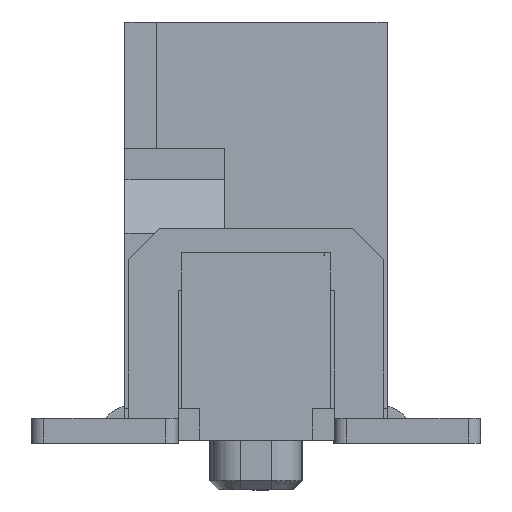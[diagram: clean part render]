
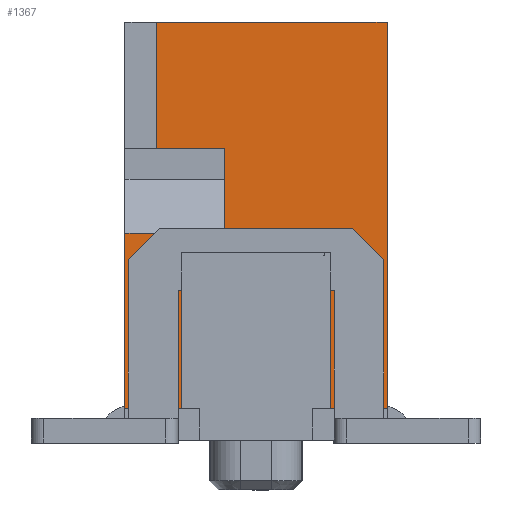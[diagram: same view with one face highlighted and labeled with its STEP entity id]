
A CAD part, left-side view. The second image highlights one B-rep face of the part: STEP entity #1367.
In plain terms, the highlighted planar face has unit normal (-1, 0, 0).
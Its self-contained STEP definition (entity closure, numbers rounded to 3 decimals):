
#1367=ADVANCED_FACE('',(#3256),#3257,.F.);
#3256=FACE_OUTER_BOUND('',#5735,.T.);
#3257=PLANE('',#5736);
#5735=EDGE_LOOP('',(#9747,#9748,#9749,#9750,#9751,#9752,#9753,#9754,#9755,#9756,#9757,#9758));
#5736=AXIS2_PLACEMENT_3D('',#9759,#9760,#9761);
#9747=ORIENTED_EDGE('',*,*,#16084,.T.);
#9748=ORIENTED_EDGE('',*,*,#16085,.F.);
#9749=ORIENTED_EDGE('',*,*,#15983,.F.);
#9750=ORIENTED_EDGE('',*,*,#16086,.F.);
#9751=ORIENTED_EDGE('',*,*,#16087,.T.);
#9752=ORIENTED_EDGE('',*,*,#16088,.F.);
#9753=ORIENTED_EDGE('',*,*,#16089,.T.);
#9754=ORIENTED_EDGE('',*,*,#16090,.T.);
#9755=ORIENTED_EDGE('',*,*,#16091,.F.);
#9756=ORIENTED_EDGE('',*,*,#16092,.F.);
#9757=ORIENTED_EDGE('',*,*,#16077,.T.);
#9758=ORIENTED_EDGE('',*,*,#16093,.T.);
#9759=CARTESIAN_POINT('',(1.18,4.2,-0.8));
#9760=DIRECTION('',(1.0,0.0,0.0));
#9761=DIRECTION('',(0.0,1.0,0.0));
#15983=EDGE_CURVE('',#19549,#19540,#19551,.T.);
#16077=EDGE_CURVE('',#19715,#19713,#19716,.T.);
#16084=EDGE_CURVE('',#19725,#19726,#19727,.T.);
#16085=EDGE_CURVE('',#19540,#19726,#19728,.T.);
#16086=EDGE_CURVE('',#19729,#19549,#19730,.T.);
#16087=EDGE_CURVE('',#19729,#19731,#19732,.T.);
#16088=EDGE_CURVE('',#19733,#19731,#19734,.T.);
#16089=EDGE_CURVE('',#19733,#19735,#19736,.T.);
#16090=EDGE_CURVE('',#19735,#19737,#19738,.T.);
#16091=EDGE_CURVE('',#19739,#19737,#19740,.T.);
#16092=EDGE_CURVE('',#19715,#19739,#19741,.T.);
#16093=EDGE_CURVE('',#19713,#19725,#19742,.T.);
#19540=VERTEX_POINT('',#24892);
#19549=VERTEX_POINT('',#24905);
#19551=LINE('',#24908,#24909);
#19713=VERTEX_POINT('',#25148);
#19715=VERTEX_POINT('',#25151);
#19716=LINE('',#25152,#25153);
#19725=VERTEX_POINT('',#25166);
#19726=VERTEX_POINT('',#25167);
#19727=LINE('',#25168,#25169);
#19728=LINE('',#25170,#25171);
#19729=VERTEX_POINT('',#25172);
#19730=LINE('',#25173,#25174);
#19731=VERTEX_POINT('',#25175);
#19732=LINE('',#25176,#25177);
#19733=VERTEX_POINT('',#25178);
#19734=LINE('',#25179,#25180);
#19735=VERTEX_POINT('',#25181);
#19736=LINE('',#25182,#25183);
#19737=VERTEX_POINT('',#25184);
#19738=LINE('',#25185,#25186);
#19739=VERTEX_POINT('',#25187);
#19740=LINE('',#25188,#25189);
#19741=LINE('',#25190,#25191);
#19742=LINE('',#25192,#25193);
#24892=CARTESIAN_POINT('',(1.18,3.7,4.68));
#24905=CARTESIAN_POINT('',(1.18,2.6,4.68));
#24908=CARTESIAN_POINT('',(1.18,2.6,4.68));
#24909=VECTOR('',#30613,1000.0);
#25148=CARTESIAN_POINT('',(1.18,0.0,0.5));
#25151=CARTESIAN_POINT('',(1.18,0.905,0.5));
#25152=CARTESIAN_POINT('',(1.18,4.2,0.5));
#25153=VECTOR('',#30696,1000.0);
#25166=CARTESIAN_POINT('',(1.18,0.0,6.7));
#25167=CARTESIAN_POINT('',(1.18,3.7,6.7));
#25168=CARTESIAN_POINT('',(1.18,4.2,6.7));
#25169=VECTOR('',#30701,1000.0);
#25170=CARTESIAN_POINT('',(1.18,3.7,4.4));
#25171=VECTOR('',#30702,1000.0);
#25172=CARTESIAN_POINT('',(1.18,2.6,3.314));
#25173=CARTESIAN_POINT('',(1.18,2.6,3.314));
#25174=VECTOR('',#30703,1000.0);
#25175=CARTESIAN_POINT('',(1.18,4.2,3.314));
#25176=CARTESIAN_POINT('',(1.18,2.6,3.314));
#25177=VECTOR('',#30704,1000.0);
#25178=CARTESIAN_POINT('',(1.18,4.2,0.5));
#25179=CARTESIAN_POINT('',(1.18,4.2,-0.8));
#25180=VECTOR('',#30705,1000.0);
#25181=CARTESIAN_POINT('',(1.18,3.295,0.5));
#25182=CARTESIAN_POINT('',(1.18,4.2,0.5));
#25183=VECTOR('',#30706,1000.0);
#25184=CARTESIAN_POINT('',(1.18,3.295,2.395));
#25185=CARTESIAN_POINT('',(1.18,3.295,-1.5));
#25186=VECTOR('',#30707,1.0);
#25187=CARTESIAN_POINT('',(1.18,0.905,2.395));
#25188=CARTESIAN_POINT('',(1.18,2.1,2.395));
#25189=VECTOR('',#30708,1.0);
#25190=CARTESIAN_POINT('',(1.18,0.905,-1.5));
#25191=VECTOR('',#30709,1.0);
#25192=CARTESIAN_POINT('',(1.18,0.,-0.8));
#25193=VECTOR('',#30710,1000.0);
#30613=DIRECTION('',(0.0,1.0,0.0));
#30696=DIRECTION('',(0.0,-1.0,0.0));
#30701=DIRECTION('',(0.0,1.0,0.0));
#30702=DIRECTION('',(0.0,0.0,1.0));
#30703=DIRECTION('',(0.0,0.0,1.0));
#30704=DIRECTION('',(0.0,1.0,0.0));
#30705=DIRECTION('',(0.0,0.0,1.0));
#30706=DIRECTION('',(0.0,-1.0,0.0));
#30707=DIRECTION('',(0.0,0.0,1.0));
#30708=DIRECTION('',(0.0,1.0,0.));
#30709=DIRECTION('',(0.0,0.0,1.0));
#30710=DIRECTION('',(0.0,0.0,1.0));
